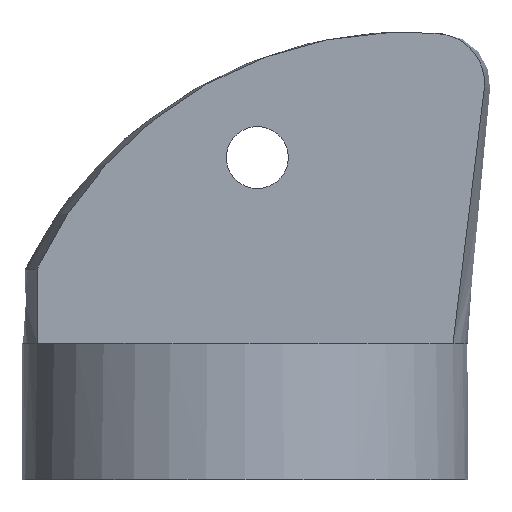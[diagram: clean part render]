
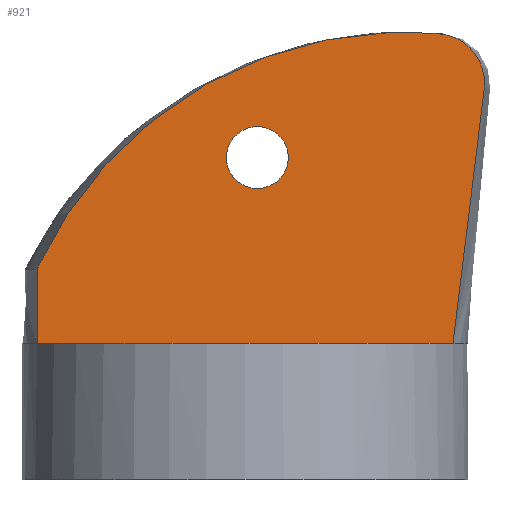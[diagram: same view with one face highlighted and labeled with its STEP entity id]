
A CAD part, front view. The second image highlights one B-rep face of the part: STEP entity #921.
In plain terms, the highlighted planar face has unit normal (0, -1, 0).
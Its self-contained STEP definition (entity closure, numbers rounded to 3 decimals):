
#325=CARTESIAN_POINT('',(-8.393,-3.25,5.5));
#326=VERTEX_POINT('',#325);
#336=CARTESIAN_POINT('',(-8.393,-3.25,8.5));
#337=VERTEX_POINT('',#336);
#338=CARTESIAN_POINT('',(-8.393,-3.25,5.5));
#339=DIRECTION('',(0.,0.,1.));
#340=VECTOR('',#339,3.);
#341=LINE('',#338,#340);
#342=EDGE_CURVE('',#326,#337,#341,.T.);
#604=CARTESIAN_POINT('',(9.653,-3.25,15.764));
#605=VERTEX_POINT('',#604);
#606=CARTESIAN_POINT('',(-8.393,-3.25,8.5));
#607=CARTESIAN_POINT('',(-7.988,-3.25,9.39));
#608=CARTESIAN_POINT('',(-7.511,-3.25,10.23));
#609=CARTESIAN_POINT('',(-6.963,-3.25,11.023));
#610=CARTESIAN_POINT('',(-6.689,-3.25,11.42));
#611=CARTESIAN_POINT('',(-6.398,-3.25,11.804));
#612=CARTESIAN_POINT('',(-6.089,-3.25,12.177));
#613=CARTESIAN_POINT('',(-5.934,-3.25,12.363));
#614=CARTESIAN_POINT('',(-5.775,-3.25,12.546));
#615=CARTESIAN_POINT('',(-5.611,-3.25,12.726));
#616=CARTESIAN_POINT('',(-5.447,-3.25,12.906));
#617=CARTESIAN_POINT('',(-5.278,-3.25,13.084));
#618=CARTESIAN_POINT('',(-5.107,-3.25,13.256));
#619=CARTESIAN_POINT('',(-4.419,-3.25,13.947));
#620=CARTESIAN_POINT('',(-3.679,-3.25,14.567));
#621=CARTESIAN_POINT('',(-2.889,-3.25,15.12));
#622=CARTESIAN_POINT('',(-2.494,-3.25,15.396));
#623=CARTESIAN_POINT('',(-2.086,-3.25,15.655));
#624=CARTESIAN_POINT('',(-1.665,-3.25,15.897));
#625=CARTESIAN_POINT('',(-1.245,-3.25,16.138));
#626=CARTESIAN_POINT('',(-0.808,-3.25,16.363));
#627=CARTESIAN_POINT('',(-0.367,-3.25,16.566));
#628=CARTESIAN_POINT('',(0.516,-3.25,16.972));
#629=CARTESIAN_POINT('',(1.425,-3.25,17.296));
#630=CARTESIAN_POINT('',(2.359,-3.25,17.538));
#631=CARTESIAN_POINT('',(2.826,-3.25,17.659));
#632=CARTESIAN_POINT('',(3.299,-3.25,17.76));
#633=CARTESIAN_POINT('',(3.779,-3.25,17.839));
#634=CARTESIAN_POINT('',(4.259,-3.25,17.919));
#635=CARTESIAN_POINT('',(4.746,-3.25,17.977));
#636=CARTESIAN_POINT('',(5.231,-3.25,18.014));
#637=CARTESIAN_POINT('',(5.716,-3.25,18.05));
#638=CARTESIAN_POINT('',(6.202,-3.25,18.065));
#639=CARTESIAN_POINT('',(6.688,-3.25,18.057));
#640=CARTESIAN_POINT('',(6.931,-3.25,18.054));
#641=CARTESIAN_POINT('',(7.175,-3.25,18.045));
#642=CARTESIAN_POINT('',(7.418,-3.25,18.03));
#643=CARTESIAN_POINT('',(7.54,-3.25,18.023));
#644=CARTESIAN_POINT('',(7.662,-3.25,18.015));
#645=CARTESIAN_POINT('',(7.783,-3.25,18.005));
#646=CARTESIAN_POINT('',(7.844,-3.25,18.));
#647=CARTESIAN_POINT('',(7.905,-3.25,17.994));
#648=CARTESIAN_POINT('',(7.965,-3.25,17.985));
#649=CARTESIAN_POINT('',(8.025,-3.25,17.976));
#650=CARTESIAN_POINT('',(8.084,-3.25,17.964));
#651=CARTESIAN_POINT('',(8.143,-3.25,17.95));
#652=CARTESIAN_POINT('',(8.377,-3.25,17.893));
#653=CARTESIAN_POINT('',(8.603,-3.25,17.792));
#654=CARTESIAN_POINT('',(8.802,-3.25,17.655));
#655=CARTESIAN_POINT('',(8.901,-3.25,17.587));
#656=CARTESIAN_POINT('',(8.995,-3.25,17.509));
#657=CARTESIAN_POINT('',(9.081,-3.25,17.423));
#658=CARTESIAN_POINT('',(9.167,-3.25,17.337));
#659=CARTESIAN_POINT('',(9.244,-3.25,17.244));
#660=CARTESIAN_POINT('',(9.313,-3.25,17.145));
#661=CARTESIAN_POINT('',(9.381,-3.25,17.046));
#662=CARTESIAN_POINT('',(9.442,-3.25,16.939));
#663=CARTESIAN_POINT('',(9.491,-3.25,16.829));
#664=CARTESIAN_POINT('',(9.541,-3.25,16.718));
#665=CARTESIAN_POINT('',(9.581,-3.25,16.604));
#666=CARTESIAN_POINT('',(9.61,-3.25,16.487));
#667=CARTESIAN_POINT('',(9.638,-3.25,16.37));
#668=CARTESIAN_POINT('',(9.657,-3.25,16.248));
#669=CARTESIAN_POINT('',(9.664,-3.25,16.127));
#670=CARTESIAN_POINT('',(9.671,-3.25,16.006));
#671=CARTESIAN_POINT('',(9.668,-3.25,15.885));
#672=CARTESIAN_POINT('',(9.653,-3.25,15.764));
#673=B_SPLINE_CURVE_WITH_KNOTS('',3,(#606,#607,#608,#609,#610,#611,#612,#613,#614,#615,#616,#617,#618,#619,#620,#621,#622,#623,#624,#625,#626,#627,#628,#629,#630,#631,
#632,#633,#634,#635,#636,#637,#638,#639,#640,#641,#642,#643,#644,#645,#646,#647,#648,#649,#650,#651,#652,#653,#654,#655,#656,
#657,#658,#659,#660,#661,#662,#663,#664,#665,#666,#667,#668,#669,#670,#671,#672),.UNSPECIFIED.,.F.,.F.,(4,3,3,3,3,3,3,3,3,3,3,3,3,3,3,3,3,3,3,3,3,3,4),(-0.02,-0.017,-0.016,-0.015,-0.014,-0.011,-0.01,-0.008,-0.005,-0.004,-0.003,-0.001,0.,0.,0.,0.,0.001,0.001,0.002,0.002,0.002,0.003,0.003),.UNSPECIFIED.);
#674=EDGE_CURVE('',#337,#605,#673,.T.);
#676=CARTESIAN_POINT('',(8.393,-3.25,5.5));
#677=VERTEX_POINT('',#676);
#678=CARTESIAN_POINT('',(9.653,-3.25,15.764));
#679=DIRECTION('',(-0.122,0.,-0.993));
#680=VECTOR('',#679,10.341);
#681=LINE('',#678,#680);
#682=EDGE_CURVE('',#605,#677,#681,.T.);
#856=CARTESIAN_POINT('',(0.5,-3.25,14.25));
#857=VERTEX_POINT('',#856);
#872=CARTESIAN_POINT('',(0.5,-3.25,11.75));
#873=VERTEX_POINT('',#872);
#874=CARTESIAN_POINT('',(0.5,-3.25,13.));
#875=DIRECTION('',(0.,-1.,0.));
#876=DIRECTION('',(0.,0.,-1.));
#877=AXIS2_PLACEMENT_3D('',#874,#875,#876);
#878=CIRCLE('',#877,1.25);
#879=EDGE_CURVE('',#857,#873,#878,.T.);
#881=CARTESIAN_POINT('',(0.5,-3.25,13.));
#882=DIRECTION('',(0.,-1.,0.));
#883=DIRECTION('',(0.,0.,-1.));
#884=AXIS2_PLACEMENT_3D('',#881,#882,#883);
#885=CIRCLE('',#884,1.25);
#886=EDGE_CURVE('',#873,#857,#885,.T.);
#897=CARTESIAN_POINT('',(8.393,-3.25,5.5));
#898=DIRECTION('',(-1.,0.,0.));
#899=VECTOR('',#898,16.785);
#900=LINE('',#897,#899);
#901=EDGE_CURVE('',#677,#326,#900,.T.);
#906=CARTESIAN_POINT('',(6.448,-3.25,1.759));
#907=DIRECTION('',(0.,-1.,0.));
#908=DIRECTION('',(0.,0.,-1.));
#909=AXIS2_PLACEMENT_3D('',#906,#907,#908);
#910=PLANE('',#909);
#911=ORIENTED_EDGE('',*,*,#879,.F.);
#912=ORIENTED_EDGE('',*,*,#886,.F.);
#913=EDGE_LOOP('',(#911,#912));
#914=FACE_BOUND('',#913,.T.);
#915=ORIENTED_EDGE('',*,*,#901,.F.);
#916=ORIENTED_EDGE('',*,*,#682,.F.);
#917=ORIENTED_EDGE('',*,*,#674,.F.);
#918=ORIENTED_EDGE('',*,*,#342,.F.);
#919=EDGE_LOOP('',(#915,#916,#917,#918));
#920=FACE_BOUND('',#919,.T.);
#921=ADVANCED_FACE('',(#914,#920),#910,.T.);
